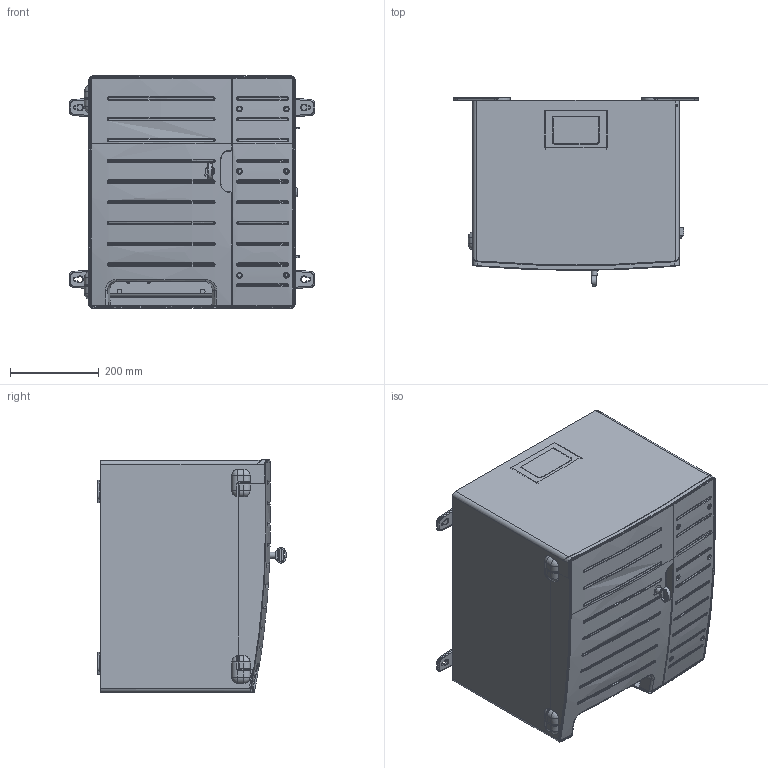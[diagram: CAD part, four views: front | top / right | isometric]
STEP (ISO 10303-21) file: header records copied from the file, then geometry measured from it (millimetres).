
FILE_DESCRIPTION(/* description */ (''),/* implementation_level */ '2;1');
FILE_NAME(/* name */ '4010005.stp',/* time_stamp */ '2017-11-13T08:38:29+01:00',/* author */ (''),/* organization */ (''),/* preprocessor_version */ 'ST-DEVELOPER v16',/* originating_system */ 'SIEMENS PLM Software NX 11.0',/* authorisation */ '');
FILE_SCHEMA (('AUTOMOTIVE_DESIGN { 1 0 10303 214 3 1 1 1 }'));
Products named in the file (1): 4010005_LINKEDEXT_jt
Bounding box: 552.5 x 424.8 x 523.5 mm (x, y, z)
Surface area: 1837278 mm2 (no closed solid volume)
Topology: 0 solids, 161 shells, 731 faces, 3387 edges, 2743 vertices
Faces by surface type: cylinder 249, plane 226, bspline 167, torus 44, sphere 17, revolution 14, cone 12, extrusion 2
Full cylindrical faces by diameter (mm): 5 x2, 5.5 x1, 13.5 x1, 33 x1
Entity records: 47620 total; most frequent: CARTESIAN_POINT 19671, DIRECTION 4994, ORIENTED_EDGE 4193, EDGE_CURVE 3325, VERTEX_POINT 2724, AXIS2_PLACEMENT_3D 1789, VECTOR 1402, LINE 1400
